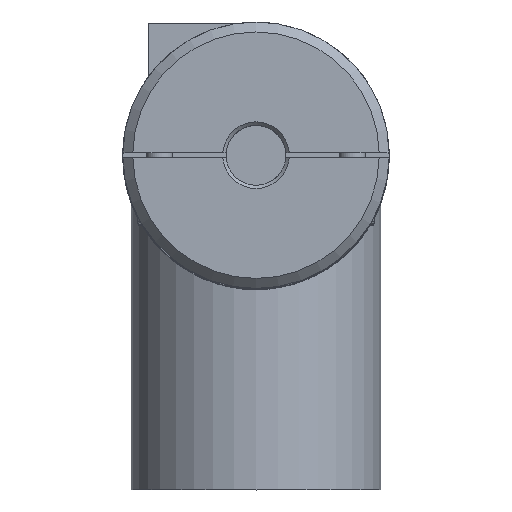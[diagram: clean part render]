
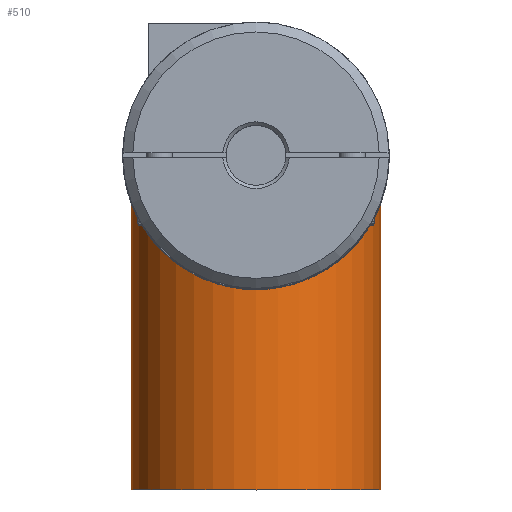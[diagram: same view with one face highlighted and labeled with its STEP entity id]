
A CAD part, top view. The second image highlights one B-rep face of the part: STEP entity #510.
In plain terms, the highlighted cylindrical face has radius 37.5 mm (diameter 75 mm), a full revolution.
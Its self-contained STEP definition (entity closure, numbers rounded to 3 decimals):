
#510 = ADVANCED_FACE( '', ( #1094, #1095 ), #1096, .T. );
#1094 = FACE_OUTER_BOUND( '', #1693, .T. );
#1095 = FACE_OUTER_BOUND( '', #1694, .T. );
#1096 = CYLINDRICAL_SURFACE( '', #1695, 37.5 );
#1693 = EDGE_LOOP( '', ( #3264 ) );
#1694 = EDGE_LOOP( '', ( #3265 ) );
#1695 = AXIS2_PLACEMENT_3D( '', #3266, #3267, #3268 );
#3264 = ORIENTED_EDGE( '', *, *, #4300, .T. );
#3265 = ORIENTED_EDGE( '', *, *, #4301, .F. );
#3266 = CARTESIAN_POINT( '', ( 0., -100., 0. ) );
#3267 = DIRECTION( '', ( 0., -1., 0. ) );
#3268 = DIRECTION( '', ( 0., 0., 1. ) );
#4300 = EDGE_CURVE( '', #5132, #5132, #5133, .T. );
#4301 = EDGE_CURVE( '', #5134, #5134, #5135, .T. );
#5132 = VERTEX_POINT( '', #6718 );
#5133 = CIRCLE( '', #6719, 37.5 );
#5134 = VERTEX_POINT( '', #6720 );
#5135 = CIRCLE( '', #6721, 37.5 );
#6718 = CARTESIAN_POINT( '', ( 37.5, -100., 0. ) );
#6719 = AXIS2_PLACEMENT_3D( '', #7906, #7907, #7908 );
#6720 = CARTESIAN_POINT( '', ( 37.5, 0., 0. ) );
#6721 = AXIS2_PLACEMENT_3D( '', #7909, #7910, #7911 );
#7906 = CARTESIAN_POINT( '', ( 0., -100., 0. ) );
#7907 = DIRECTION( '', ( 0., 1., 0. ) );
#7908 = DIRECTION( '', ( 1., 0., 0. ) );
#7909 = CARTESIAN_POINT( '', ( 0., 0., 0. ) );
#7910 = DIRECTION( '', ( 0., 1., 0. ) );
#7911 = DIRECTION( '', ( 1., 0., 0. ) );
